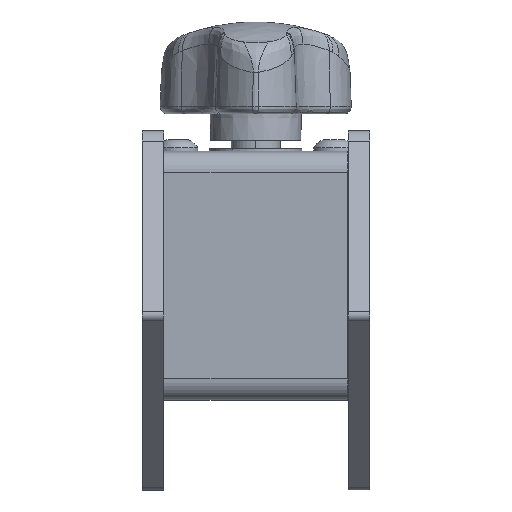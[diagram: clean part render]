
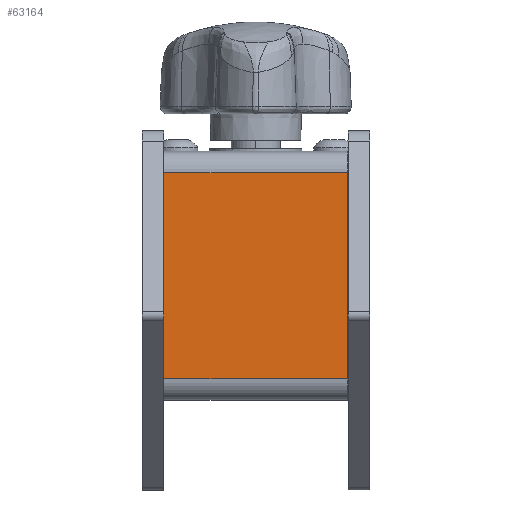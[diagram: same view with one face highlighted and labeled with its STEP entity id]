
A CAD part, front view. The second image highlights one B-rep face of the part: STEP entity #63164.
In plain terms, the highlighted planar face has unit normal (0, -1, 0).
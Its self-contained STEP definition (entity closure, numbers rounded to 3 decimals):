
#2371 = CARTESIAN_POINT ( 'NONE',  ( -12.925, -14.9, 29. ) ) ;
#2388 = VERTEX_POINT ( 'NONE', #47047 ) ;
#4425 = ORIENTED_EDGE ( 'NONE', *, *, #44738, .T. ) ;
#5882 = LINE ( 'NONE', #43028, #50032 ) ;
#9883 = CARTESIAN_POINT ( 'NONE',  ( -12.925, -14.9, 26. ) ) ;
#12232 = CARTESIAN_POINT ( 'NONE',  ( 12.925, -14.9, 29. ) ) ;
#14060 = VERTEX_POINT ( 'NONE', #80214 ) ;
#14253 = EDGE_CURVE ( 'NONE', #14060, #57828, #70371, .T. ) ;
#17006 = ORIENTED_EDGE ( 'NONE', *, *, #71741, .F. ) ;
#17120 = CARTESIAN_POINT ( 'NONE',  ( -12.925, -14.9, 26. ) ) ;
#21002 = DIRECTION ( 'NONE',  ( 0., 0., -1. ) ) ;
#21771 = ORIENTED_EDGE ( 'NONE', *, *, #14253, .T. ) ;
#22049 = VECTOR ( 'NONE', #92793, 1000. ) ;
#28368 = DIRECTION ( 'NONE',  ( 1., 0., 0. ) ) ;
#28434 = EDGE_CURVE ( 'NONE', #56755, #2388, #5882, .T. ) ;
#32681 = LINE ( 'NONE', #2371, #22049 ) ;
#42625 = VECTOR ( 'NONE', #68460, 1000. ) ;
#43028 = CARTESIAN_POINT ( 'NONE',  ( -12.925, -14.9, -3. ) ) ;
#44433 = PLANE ( 'NONE',  #44909 ) ;
#44738 = EDGE_CURVE ( 'NONE', #2388, #14060, #86529, .T. ) ;
#44909 = AXIS2_PLACEMENT_3D ( 'NONE', #73274, #60070, #21002 ) ;
#45528 = ORIENTED_EDGE ( 'NONE', *, *, #28434, .T. ) ;
#47047 = CARTESIAN_POINT ( 'NONE',  ( 12.925, -14.9, -3. ) ) ;
#50032 = VECTOR ( 'NONE', #28368, 1000. ) ;
#54158 = VECTOR ( 'NONE', #82559, 1000. ) ;
#56755 = VERTEX_POINT ( 'NONE', #91635 ) ;
#57828 = VERTEX_POINT ( 'NONE', #9883 ) ;
#60070 = DIRECTION ( 'NONE',  ( 0., 1., 0. ) ) ;
#63164 = ADVANCED_FACE ( 'NONE', ( #95310 ), #44433, .F. ) ;
#68460 = DIRECTION ( 'NONE',  ( -1., 0., 0. ) ) ;
#70371 = LINE ( 'NONE', #17120, #42625 ) ;
#71741 = EDGE_CURVE ( 'NONE', #56755, #57828, #32681, .T. ) ;
#73274 = CARTESIAN_POINT ( 'NONE',  ( -12.925, -14.9, 29. ) ) ;
#80214 = CARTESIAN_POINT ( 'NONE',  ( 12.925, -14.9, 26. ) ) ;
#82559 = DIRECTION ( 'NONE',  ( 0., 0., 1. ) ) ;
#86529 = LINE ( 'NONE', #12232, #54158 ) ;
#90061 = EDGE_LOOP ( 'NONE', ( #17006, #45528, #4425, #21771 ) ) ;
#91635 = CARTESIAN_POINT ( 'NONE',  ( -12.925, -14.9, -3. ) ) ;
#92793 = DIRECTION ( 'NONE',  ( 0., 0., 1. ) ) ;
#95310 = FACE_OUTER_BOUND ( 'NONE', #90061, .T. ) ;
